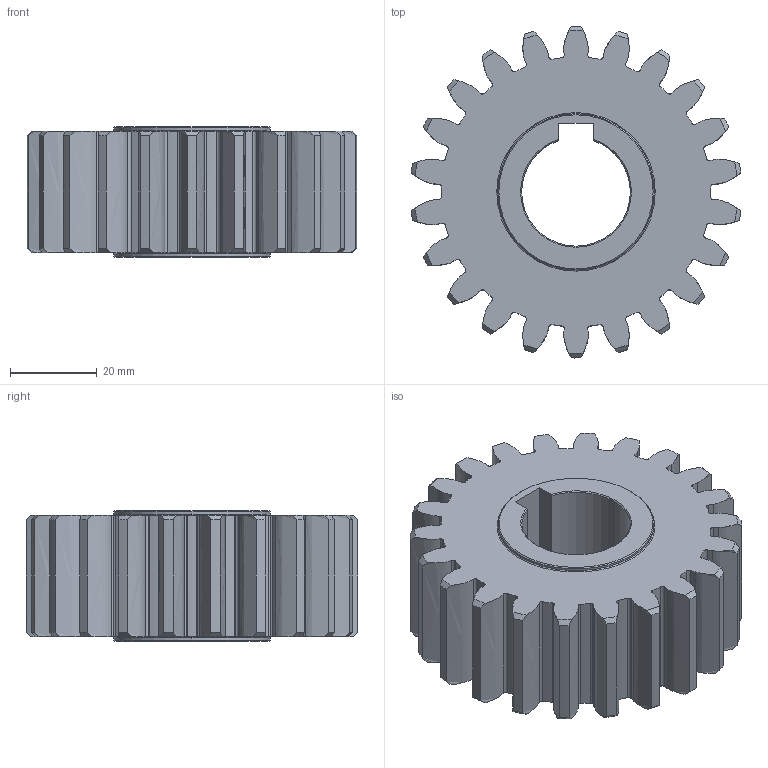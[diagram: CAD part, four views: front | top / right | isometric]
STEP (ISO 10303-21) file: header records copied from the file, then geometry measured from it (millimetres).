
FILE_DESCRIPTION (( 'STEP AP214' ), '1' );
FILE_NAME ('1SG__S031022S.STEP', '2021-12-20T08:41:37', ( '' ), ( '' ), 'SwSTEP 2.0', 'SolidWorks 2021', '' );
FILE_SCHEMA (( 'AUTOMOTIVE_DESIGN' ));
Length unit declared in the file: millimetre
Products named in the file (1): 1SG__S031022S
Bounding box: 75.9 x 76.39 x 30 mm (x, y, z)
Volume: 92081.7 mm3; surface area: 21711.1 mm2
Topology: 1 solids, 1 shells, 238 faces, 734 edges, 500 vertices
Faces by surface type: cylinder 85, bspline 66, cone 54, plane 29, torus 4
Entity records: 14642 total; most frequent: CARTESIAN_POINT 8305, ORIENTED_EDGE 1468, DIRECTION 1176, EDGE_CURVE 734, VERTEX_POINT 500, AXIS2_PLACEMENT_3D 449, VECTOR 278, LINE 278
